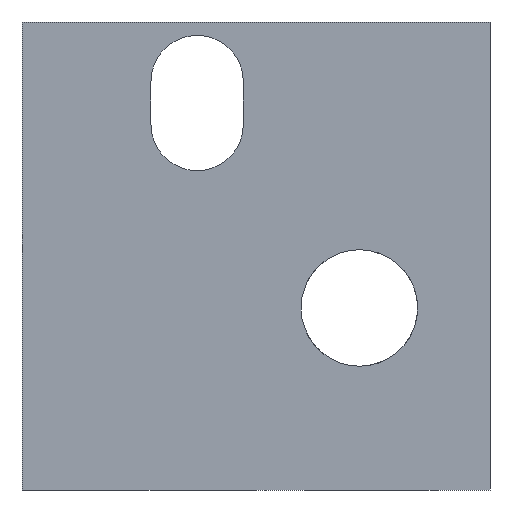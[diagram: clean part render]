
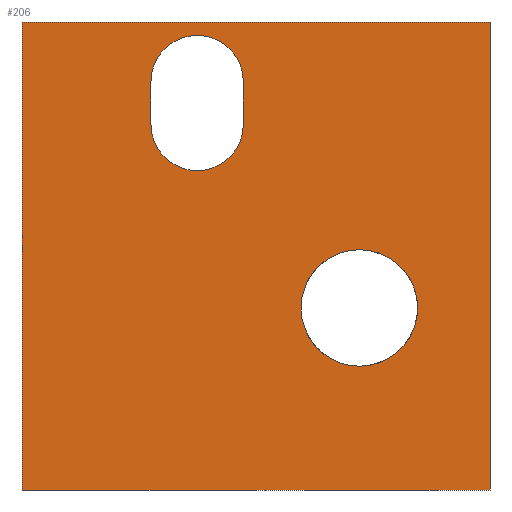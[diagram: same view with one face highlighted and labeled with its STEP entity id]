
A CAD part, left-side view. The second image highlights one B-rep face of the part: STEP entity #206.
In plain terms, the highlighted planar face has unit normal (-1, 0, 0).
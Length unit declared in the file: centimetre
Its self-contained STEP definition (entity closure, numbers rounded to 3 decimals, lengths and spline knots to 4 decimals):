
#33 = PLANE ( 'NONE',  #717 ) ;
#58 = CIRCLE ( 'NONE', #1222, 98.718 ) ;
#60 = VERTEX_POINT ( 'NONE', #632 ) ;
#79 = CARTESIAN_POINT ( 'NONE',  ( 0., 625.7632, 781.0131 ) ) ;
#105 = AXIS2_PLACEMENT_3D ( 'NONE', #79, #1473, #207 ) ;
#107 = VERTEX_POINT ( 'NONE', #488 ) ;
#144 = DIRECTION ( 'NONE',  ( 0., 0., -1. ) ) ;
#154 = DIRECTION ( 'NONE',  ( 0., 0., 1. ) ) ;
#160 = ORIENTED_EDGE ( 'NONE', *, *, #176, .F. ) ;
#176 = EDGE_CURVE ( 'NONE', #1459, #739, #1996, .T. ) ;
#184 = CARTESIAN_POINT ( 'NONE',  ( 0., 0., 0. ) ) ;
#201 = VERTEX_POINT ( 'NONE', #812 ) ;
#206 = ADVANCED_FACE ( 'NONE', ( #1608, #1916, #831 ), #33, .F. ) ;
#207 = DIRECTION ( 'NONE',  ( 0., 0., 1. ) ) ;
#212 = VERTEX_POINT ( 'NONE', #655 ) ;
#316 = EDGE_LOOP ( 'NONE', ( #1037, #160 ) ) ;
#330 = CARTESIAN_POINT ( 'NONE',  ( 0., 724.4811, 781.0131 ) ) ;
#334 = CARTESIAN_POINT ( 'NONE',  ( 0., 279.1414, 264.4216 ) ) ;
#370 = CIRCLE ( 'NONE', #499, 98.718 ) ;
#429 = EDGE_CURVE ( 'NONE', #60, #979, #597, .T. ) ;
#454 = AXIS2_PLACEMENT_3D ( 'NONE', #1229, #1568, #154 ) ;
#488 = CARTESIAN_POINT ( 'NONE',  ( 0., 724.4811, 872.6495 ) ) ;
#498 = DIRECTION ( 'NONE',  ( 0., -1., 0. ) ) ;
#499 = AXIS2_PLACEMENT_3D ( 'NONE', #719, #1813, #1035 ) ;
#597 = LINE ( 'NONE', #620, #1284 ) ;
#619 = VERTEX_POINT ( 'NONE', #330 ) ;
#620 = CARTESIAN_POINT ( 'NONE',  ( 0., 1000., 1000. ) ) ;
#632 = CARTESIAN_POINT ( 'NONE',  ( 0., 1000., 1000. ) ) ;
#655 = CARTESIAN_POINT ( 'NONE',  ( 0., 527.0452, 872.6495 ) ) ;
#666 = LINE ( 'NONE', #1433, #1336 ) ;
#674 = DIRECTION ( 'NONE',  ( 0., 0., -1. ) ) ;
#717 = AXIS2_PLACEMENT_3D ( 'NONE', #1431, #1595, #674 ) ;
#719 = CARTESIAN_POINT ( 'NONE',  ( 0., 625.7632, 872.6495 ) ) ;
#739 = VERTEX_POINT ( 'NONE', #1494 ) ;
#793 = EDGE_CURVE ( 'NONE', #1924, #107, #370, .T. ) ;
#796 = LINE ( 'NONE', #944, #1830 ) ;
#801 = ORIENTED_EDGE ( 'NONE', *, *, #1858, .F. ) ;
#805 = DIRECTION ( 'NONE',  ( 0., 0., -1. ) ) ;
#809 = CARTESIAN_POINT ( 'NONE',  ( 0., 625.7632, 872.6495 ) ) ;
#812 = CARTESIAN_POINT ( 'NONE',  ( 0., 1000., 0. ) ) ;
#813 = LINE ( 'NONE', #1761, #1432 ) ;
#831 = FACE_OUTER_BOUND ( 'NONE', #1496, .T. ) ;
#890 = ORIENTED_EDGE ( 'NONE', *, *, #793, .F. ) ;
#897 = DIRECTION ( 'NONE',  ( 0., 0., 1. ) ) ;
#913 = ORIENTED_EDGE ( 'NONE', *, *, #1547, .T. ) ;
#928 = VECTOR ( 'NONE', #498, 100. ) ;
#943 = AXIS2_PLACEMENT_3D ( 'NONE', #1898, #1752, #1563 ) ;
#944 = CARTESIAN_POINT ( 'NONE',  ( 0., 1000., 1000. ) ) ;
#977 = EDGE_LOOP ( 'NONE', ( #1922, #1681, #1508, #890, #801 ) ) ;
#979 = VERTEX_POINT ( 'NONE', #985 ) ;
#985 = CARTESIAN_POINT ( 'NONE',  ( 0., 0., 1000. ) ) ;
#1035 = DIRECTION ( 'NONE',  ( 0., 0., 1. ) ) ;
#1037 = ORIENTED_EDGE ( 'NONE', *, *, #1438, .F. ) ;
#1078 = CIRCLE ( 'NONE', #943, 124.5347 ) ;
#1188 = VERTEX_POINT ( 'NONE', #1355 ) ;
#1207 = ORIENTED_EDGE ( 'NONE', *, *, #1402, .T. ) ;
#1217 = ORIENTED_EDGE ( 'NONE', *, *, #429, .F. ) ;
#1222 = AXIS2_PLACEMENT_3D ( 'NONE', #809, #1271, #897 ) ;
#1229 = CARTESIAN_POINT ( 'NONE',  ( 0., 279.1414, 388.9563 ) ) ;
#1238 = EDGE_CURVE ( 'NONE', #1188, #212, #1676, .T. ) ;
#1271 = DIRECTION ( 'NONE',  ( -1., 0., 0. ) ) ;
#1284 = VECTOR ( 'NONE', #1567, 100. ) ;
#1336 = VECTOR ( 'NONE', #805, 100. ) ;
#1355 = CARTESIAN_POINT ( 'NONE',  ( 0., 527.0452, 781.0131 ) ) ;
#1402 = EDGE_CURVE ( 'NONE', #60, #201, #796, .T. ) ;
#1431 = CARTESIAN_POINT ( 'NONE',  ( 0., 1000., 1000. ) ) ;
#1432 = VECTOR ( 'NONE', #144, 100. ) ;
#1433 = CARTESIAN_POINT ( 'NONE',  ( 0., 0., 1000. ) ) ;
#1438 = EDGE_CURVE ( 'NONE', #739, #1459, #1078, .T. ) ;
#1459 = VERTEX_POINT ( 'NONE', #334 ) ;
#1473 = DIRECTION ( 'NONE',  ( -1., 0., 0. ) ) ;
#1494 = CARTESIAN_POINT ( 'NONE',  ( 0., 279.1414, 513.491 ) ) ;
#1496 = EDGE_LOOP ( 'NONE', ( #913, #1501, #1217, #1207 ) ) ;
#1501 = ORIENTED_EDGE ( 'NONE', *, *, #1518, .F. ) ;
#1508 = ORIENTED_EDGE ( 'NONE', *, *, #1516, .F. ) ;
#1516 = EDGE_CURVE ( 'NONE', #107, #619, #813, .T. ) ;
#1518 = EDGE_CURVE ( 'NONE', #979, #1519, #666, .T. ) ;
#1519 = VERTEX_POINT ( 'NONE', #184 ) ;
#1547 = EDGE_CURVE ( 'NONE', #201, #1519, #1919, .T. ) ;
#1563 = DIRECTION ( 'NONE',  ( 0., 0., 1. ) ) ;
#1567 = DIRECTION ( 'NONE',  ( 0., -1., 0. ) ) ;
#1568 = DIRECTION ( 'NONE',  ( -1., 0., 0. ) ) ;
#1586 = VECTOR ( 'NONE', #2019, 100. ) ;
#1595 = DIRECTION ( 'NONE',  ( 1., 0., 0. ) ) ;
#1608 = FACE_BOUND ( 'NONE', #316, .T. ) ;
#1676 = LINE ( 'NONE', #1850, #1586 ) ;
#1681 = ORIENTED_EDGE ( 'NONE', *, *, #1788, .F. ) ;
#1722 = DIRECTION ( 'NONE',  ( 0., 0., -1. ) ) ;
#1752 = DIRECTION ( 'NONE',  ( -1., 0., 0. ) ) ;
#1761 = CARTESIAN_POINT ( 'NONE',  ( 0., 724.4811, 872.6495 ) ) ;
#1788 = EDGE_CURVE ( 'NONE', #619, #1188, #1817, .T. ) ;
#1813 = DIRECTION ( 'NONE',  ( -1., 0., 0. ) ) ;
#1817 = CIRCLE ( 'NONE', #105, 98.718 ) ;
#1830 = VECTOR ( 'NONE', #1722, 100. ) ;
#1850 = CARTESIAN_POINT ( 'NONE',  ( 0., 527.0452, 781.0131 ) ) ;
#1858 = EDGE_CURVE ( 'NONE', #212, #1924, #58, .T. ) ;
#1898 = CARTESIAN_POINT ( 'NONE',  ( 0., 279.1414, 388.9563 ) ) ;
#1907 = CARTESIAN_POINT ( 'NONE',  ( 0., 1000., 0. ) ) ;
#1916 = FACE_BOUND ( 'NONE', #977, .T. ) ;
#1919 = LINE ( 'NONE', #1907, #928 ) ;
#1922 = ORIENTED_EDGE ( 'NONE', *, *, #1238, .F. ) ;
#1924 = VERTEX_POINT ( 'NONE', #1994 ) ;
#1994 = CARTESIAN_POINT ( 'NONE',  ( 0., 625.7632, 971.3675 ) ) ;
#1996 = CIRCLE ( 'NONE', #454, 124.5347 ) ;
#2019 = DIRECTION ( 'NONE',  ( 0., 0., 1. ) ) ;
